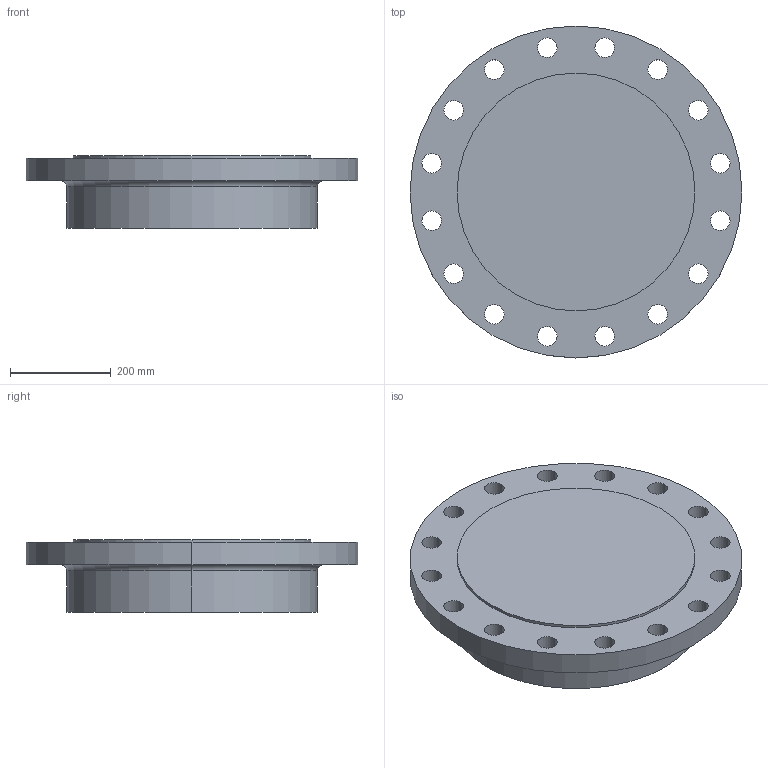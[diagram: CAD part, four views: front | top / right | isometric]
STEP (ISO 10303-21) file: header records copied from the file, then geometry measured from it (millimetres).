
FILE_DESCRIPTION (( 'STEP AP214' ), '1' );
FILE_NAME ('PN40 DN400 Type 21(i) - Type E Face.STEP', '2019-01-05T23:13:17', ( '' ), ( '' ), 'SwSTEP 2.0', 'SolidWorks 2019', '' );
FILE_SCHEMA (( 'AUTOMOTIVE_DESIGN' ));
Length unit declared in the file: millimetre
Products named in the file (1): PN40 DN400 Type 21(i) - Type E Face
Bounding box: 660 x 660 x 145 mm (x, y, z)
Volume: 33893353.7 mm3; surface area: 974324 mm2
Topology: 1 solids, 1 shells, 44 faces, 118 edges, 78 vertices
Faces by surface type: cylinder 38, plane 4, torus 2
Entity records: 1524 total; most frequent: DIRECTION 288, CARTESIAN_POINT 241, ORIENTED_EDGE 236, AXIS2_PLACEMENT_3D 125, EDGE_CURVE 118, CIRCLE 80, EDGE_LOOP 78, VERTEX_POINT 78
